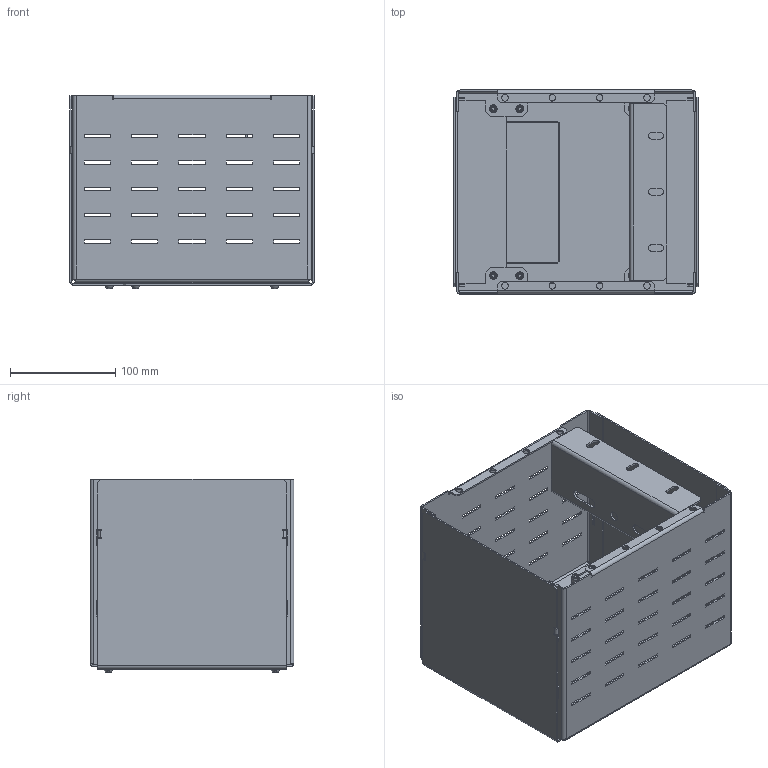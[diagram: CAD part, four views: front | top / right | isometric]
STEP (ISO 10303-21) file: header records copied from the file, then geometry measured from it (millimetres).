
FILE_DESCRIPTION(('STEP AP203'), '1');
FILE_NAME('Êîðîáêà êîììóòàöèîííàÿ áîêîâàÿ 150õ250 ìì OptiBox M 419143 ÊÝÀÇ ', '', ('UNSPECIFIED'), ('UNSPECIFIED'), 'C3D Converter', 'C3D Toolkit', '');
FILE_SCHEMA(('CONFIG_CONTROL_DESIGN'));
Length unit declared in the file: millimetre
Bounding box: 232 x 193.6 x 183.96 mm (x, y, z)
Volume: 338129.2 mm3; surface area: 455687 mm2
Topology: 19 solids, 19 shells, 687 faces, 1749 edges, 1114 vertices
Faces by surface type: plane 542, cylinder 109, cone 22, bspline 8, torus 6
Full cylindrical faces by diameter (mm): 5 x14, 6 x14, 6.3 x8, 7 x8, 7.3 x8, 8.5 x6, 9 x1, 10 x8
Entity records: 26502 total; most frequent: CARTESIAN_POINT 9748, ORIENTED_EDGE 3308, DIRECTION 3168, EDGE_CURVE 1654, LINE 1380, VECTOR 1380, VERTEX_POINT 1114, EDGE_LOOP 992
